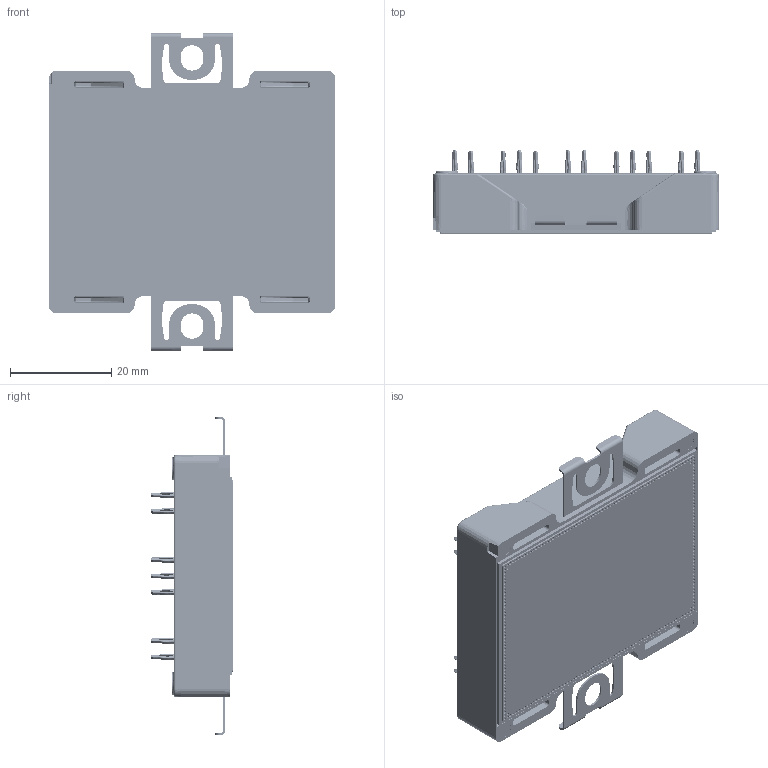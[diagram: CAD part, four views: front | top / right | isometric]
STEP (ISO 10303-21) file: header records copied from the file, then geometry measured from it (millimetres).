
FILE_DESCRIPTION (( 'STEP AP214' ), '1' );
FILE_NAME ('IBB020A33GM4T (2026-06-05).STEP', '2026-06-05T23:50:22', ( '' ), ( '' ), 'SwSTEP 2.0', 'SolidWorks 2025', '' );
FILE_SCHEMA (( 'AUTOMOTIVE_DESIGN' ));
Length unit declared in the file: millimetre
Products named in the file (1): IBB020A33GM4T (2026-06-05)
Bounding box: 56.7 x 16.4 x 62.8 mm (x, y, z)
Volume: 16901.2 mm3; surface area: 17602.2 mm2
Topology: 25 solids, 27 shells, 7387 faces, 20605 edges, 13536 vertices
Faces by surface type: plane 3641, cone 1702, cylinder 1634, torus 366, bspline 32, sphere 12
Entity records: 241195 total; most frequent: CARTESIAN_POINT 44432, DIRECTION 42165, ORIENTED_EDGE 41170, EDGE_CURVE 20585, AXIS2_PLACEMENT_3D 14525, VERTEX_POINT 13536, VECTOR 13115, LINE 13115
